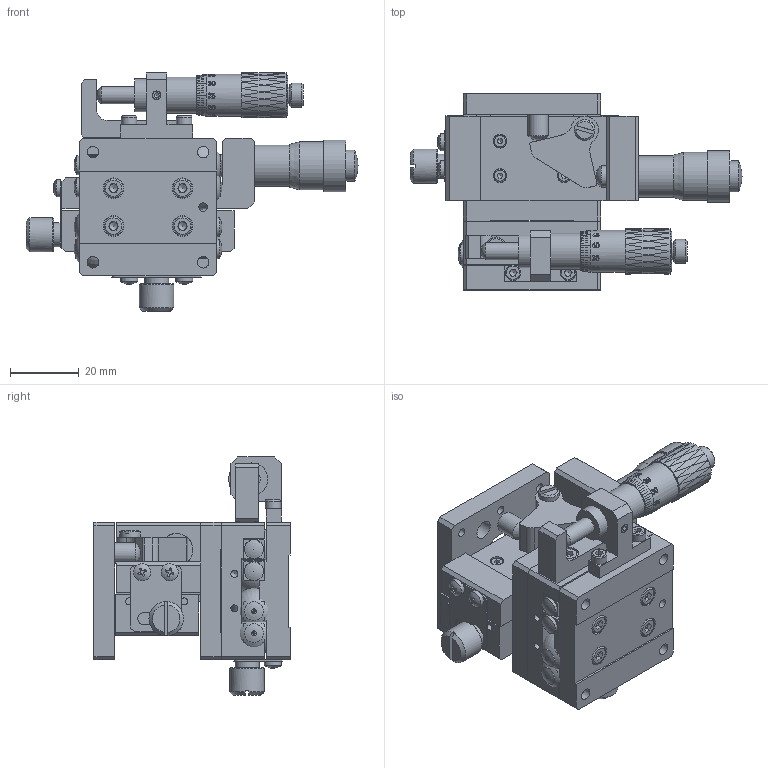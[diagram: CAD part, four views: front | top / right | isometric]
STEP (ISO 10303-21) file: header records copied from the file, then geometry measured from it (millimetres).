
FILE_DESCRIPTION (( 'STEP AP203' ), '1' );
FILE_NAME ('BLE40.STEP', '2024-07-27T06:17:20', ( 'Windows User' ), ( 'P R C' ), 'SwSTEP 2.0', 'SolidWorks 2024', '' );
FILE_SCHEMA (( 'CONFIG_CONTROL_DESIGN' ));
Products named in the file (1): BLE40
Bounding box: 96.46 x 57 x 69.4 mm (x, y, z)
Volume: 80071.1 mm3; surface area: 60681.7 mm2
Topology: 66 solids, 66 shells, 2364 faces, 5714 edges, 3661 vertices
Faces by surface type: plane 1177, cylinder 459, bspline 416, cone 249, torus 56, sphere 7
Full cylindrical faces by diameter (mm): 1.65 x8, 2 x18, 2.05 x24, 2.4 x8, 2.5 x40, 2.55 x8, 2.6 x2, 2.9 x4, 2.95 x18, 3 x29, 3.1 x2, 3.2 x2, 3.4 x19, 3.8 x8, 3.9 x8, 4 x8, 4.4 x8, 4.5 x9, 5 x12, 5.5 x19, 5.8 x2, 6 x21, 6.35 x2, 7 x3, 8.5 x2, 9 x1, 9.5 x4, 10 x2, 10.5 x1, 12 x1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
Entity records: 100029 total; most frequent: CARTESIAN_POINT 51394, ORIENTED_EDGE 10052, DIRECTION 8496, EDGE_CURVE 5026, VERTEX_POINT 3476, EDGE_LOOP 3238, AXIS2_PLACEMENT_3D 3156, FACE_OUTER_BOUND 2670
